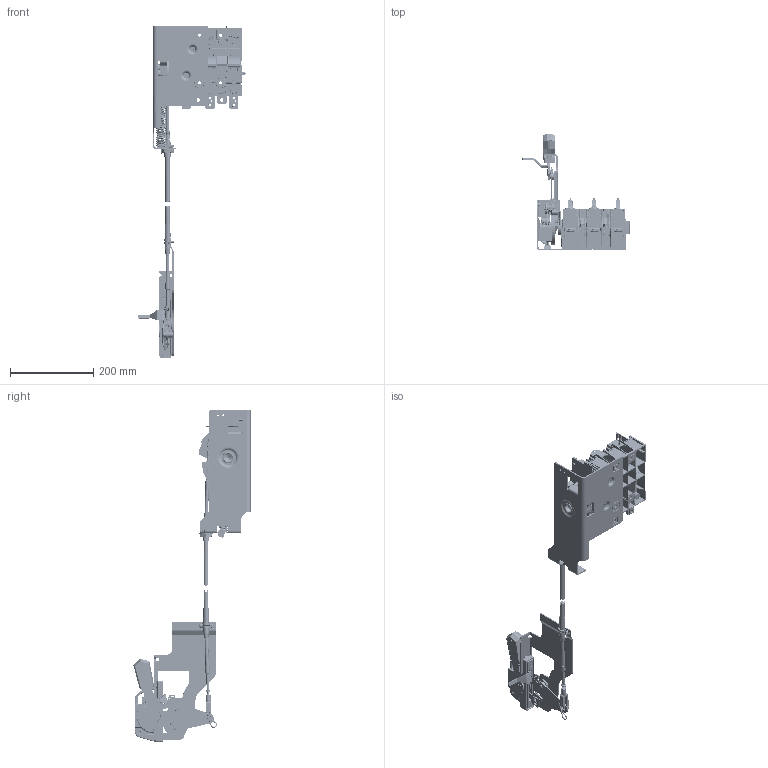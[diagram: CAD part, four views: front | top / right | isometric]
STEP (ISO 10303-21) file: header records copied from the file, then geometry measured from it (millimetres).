
FILE_DESCRIPTION((''),'2;1');
FILE_NAME('10002819459_ASM','2025-05-21T07:39:24',('LEQuenti'),('Rockwell Automation'),'CREO PARAMETRIC BY PTC INC, 2022424','CREO PARAMETRIC BY PTC INC, 2022424','');
FILE_SCHEMA(('AUTOMOTIVE_DESIGN { 1 0 10303 214 1 1 1 1 }'));
Length unit declared in the file: inch
Products named in the file (105): 10002548110; 10002550516; 10002550769_ASM; 10002548426; 10000787099; 10002160943; 10001568926; 10002549093_ASM; 40394-4039402902-PRT; 40394-027; F-14733; 40394-4039433951_ASM; 40394-031; 40394-4039403301; 40394-4039402602; 40394-4039403701; 40394-4039403702; 28406-2840650001; 40394-4039402303; 40394-4039409503; B-36118; M-7196; 40392-083; 40392-301_ASM; 40394-4039402202; 40011-4001104101; 28319-2831990501; 40026-4002606402; 40394-4039430854_ASM; 40392-036-BENT; M-7071; 335264; 10001522073; 10001522072; 10001522071; 41021-M7; 10001522108; 10003024245; 28459-352; 10003024246_ASM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
Assembly tree (159 placements, depth 6):
  10002819459_ASM
    10002551385_ASM
      10002550769_ASM
        10002548110
        10002550516
      10002549093_ASM
        10002548426
        10000787099
        10002160943
        10001568926
      40394-4039430854_ASM
        40394-4039402902-PRT
        40394-4039433951_ASM
          40394-027
          F-14733  x2
        40394-031
        40394-4039403301  x2
        40394-4039402602  x2
        40394-4039403701
        40394-4039403702
        28406-2840650001  x3
        40392-301_ASM
          40394-4039402303  x2
          40394-4039409503  x2
          B-36118
          M-7196  x2
          40392-083
        40394-4039402202
        40011-4001104101
        28319-2831990501  x2
        40026-4002606402
      40392-036-BENT
      M-7071
      335264  x2
      10002551418_ASM
        10001522073
        10001522072
        10001522071
        41021-M7
        10003024246_ASM
          10001522108
          10003024245
          28459-352
      10002601888
      10000136317  x2
      41022-197
      41021-M7  x2
    10002819458_ASM
      10002307286_ASM
        10002299349_ASM
          10002299348
          40021-256-STAKED
        10000495007  x2
        10002228326_ASM
          10002228324
          10002228325
          10001097290  x3
          10000714168
          M-1243
          10000686654
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Bounding box: 257.06 x 281.31 x 796.95 mm (x, y, z)
Volume: 1334218.1 mm3; surface area: 966780.2 mm2
Topology: 139 solids, 170 shells, 14078 faces, 36435 edges, 22903 vertices
Faces by surface type: plane 7409, cylinder 4026, bspline 1271, cone 508, torus 471, sphere 273, extrusion 118, revolution 2
Full cylindrical faces by diameter (mm): 15.088 x1
Entity records: 550225 total; most frequent: CARTESIAN_POINT 170348, ORIENTED_EDGE 61556, DIRECTION 52487, PRESENTATION_STYLE_ASSIGNMENT 31069, STYLED_ITEM 30921, CURVE_STYLE 30804, EDGE_CURVE 30804, VECTOR 19951
